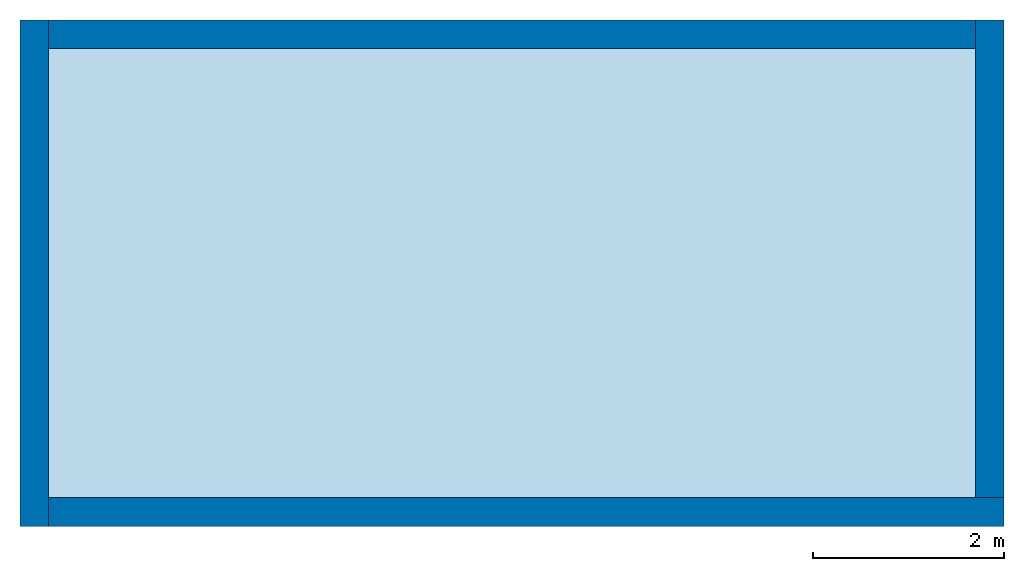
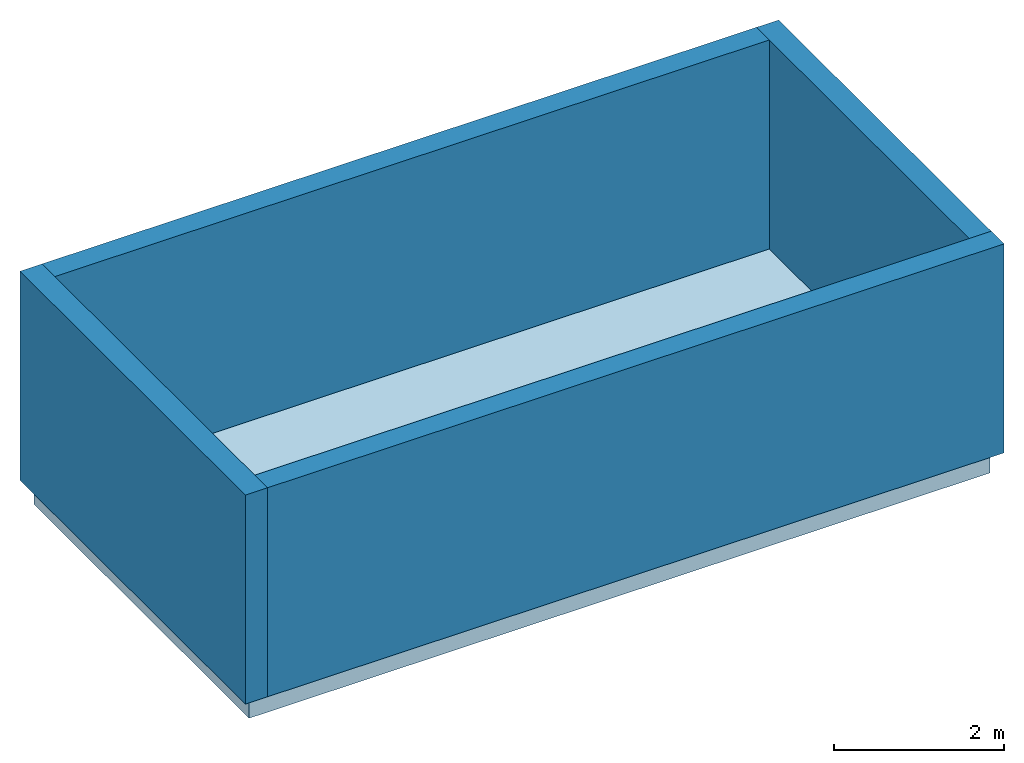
# One storey: 4 walls, 1 slab.
"""IFC2X3 building model written with IfcOpenShell, lengths in millimetres."""

from ifc_helpers import new_model, entity, si_unit, converted_unit, derived_unit, direction, frame, frame_2d, origin, place, context, subcontext, project, spatial, rectangle, extrude, material, layer, layer_set, layer_usage, type_object, element, save


model = new_model("IFC2X3")

# Units and contexts
model_context = context("Model", 3, precision=1e-05, world=origin(), true_north=direction((2.0, 6.12303176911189e-17, 1.0)))
context_of_model = context(None, 3, precision=1e-05, world=origin(), true_north=direction((2.0, 6.12303176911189e-17, 1.0)))
body_context = subcontext(model_context, "Body", "Model", "MODEL_VIEW")
ifc_project = project(units=[si_unit("LENGTHUNIT", "METRE", prefix="MILLI"), si_unit("AREAUNIT", "SQUARE_METRE"), si_unit("VOLUMEUNIT", "CUBIC_METRE"), converted_unit("PLANEANGLEUNIT", "DEGREE", entity("IfcRatioMeasure", 0.0174532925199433), si_unit("PLANEANGLEUNIT", "RADIAN"), dimensions=[0, 0, 0, 0, 0, 0, 0]), si_unit("MASSUNIT", "GRAM", prefix="KILO"), si_unit("TIMEUNIT", "SECOND"), si_unit("THERMODYNAMICTEMPERATUREUNIT", "KELVIN"), derived_unit("THERMALTRANSMITTANCEUNIT", [(si_unit("MASSUNIT", "GRAM", prefix="KILO"), 1), (si_unit("THERMODYNAMICTEMPERATUREUNIT", "KELVIN"), -1), (si_unit("TIMEUNIT", "SECOND"), -3)]), derived_unit("VOLUMETRICFLOWRATEUNIT", [(si_unit("LENGTHUNIT", "METRE"), 3), (si_unit("TIMEUNIT", "SECOND"), -1)]), si_unit("POWERUNIT", "WATT")], contexts=[model_context, context_of_model])

# Site, building, storey
site_placement = place(None, origin())
site = spatial("IfcSite", under=ifc_project, at=site_placement, Name="Surface", CompositionType="ELEMENT")
building_placement = place(site_placement, origin())
building = spatial("IfcBuilding", under=site, at=building_placement, CompositionType="ELEMENT")
storey_placement = place(building_placement, origin())
storey = spatial("IfcBuildingStorey", under=building, at=storey_placement, Name="Level 0", CompositionType="ELEMENT", Elevation=0.0)

# Slab
ifc_material_1 = material(Name="Concrete, Sand/Cement Screed")
ifc_layer_1 = layer(ifc_material_1, 65.0)
ifc_material_2 = material(Name="Rigid insulation")
ifc_layer_2 = layer(ifc_material_2, 80.0)
ifc_material_3 = material(Name="Concrete Masonry, Floor Block")
ifc_layer_3 = layer(ifc_material_3, 100.0)
ifc_material_4 = material(Name="Concrete, Precast")
ifc_layer_4 = layer(ifc_material_4, 75.0)
ifc_layer_set_1 = layer_set([ifc_layer_1, ifc_layer_2, ifc_layer_3, ifc_layer_4], Name="Floor:Beam and Block 225mm Susp Ground")
ifc_layer_usage_1 = layer_usage(ifc_layer_set_1, "AXIS3", "POSITIVE", 0.0)
slab_placement = place(storey_placement, origin())
element("IfcSlab", 1, at=slab_placement, inside=storey, material=ifc_layer_usage_1, Name="Floor:Beam and Block 225mm Susp Ground", ObjectType="Floor:Beam and Block 225mm Susp Ground", PredefinedType="FLOOR", context=body_context, shape_type="SweptSolid", body=[
    extrude(rectangle(XDim=5055.0, YDim=10055.0, at=frame_2d((0.0, 2.27373675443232e-12), x_axis=(1.0, 0.0))), frame((-1059.44147701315, 1091.33908077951, 0.0), z_axis=(0.0, 0.0, -1.0), x_axis=(0.0, 1.0, 0.0)), (0.0, 0.0, 1.0), 320.0),
])

# Walls
ifc_material_5 = material(Name="Brick, Common")
ifc_layer_5 = layer(ifc_material_5, 102.5)
ifc_material_6 = material(Name="Fiberglass Batt")
ifc_layer_6 = layer(ifc_material_6, 75.0)
ifc_material_7 = material(Name="Concrete Masonry Units")
ifc_layer_7 = layer(ifc_material_7, 110.0)
ifc_material_8 = material(Name="Gypsum Wall Board")
ifc_layer_8 = layer(ifc_material_8, 12.5)
ifc_layer_set_2 = layer_set([ifc_layer_5, ifc_layer_6, ifc_layer_7, ifc_layer_8], Name="Basic Wall:Cav - 102 75i 100 p - Lwt")
ifc_layer_usage_2 = layer_usage(ifc_layer_set_2, "AXIS2", "NEGATIVE", 150.0)
wall_type = type_object("IfcWallType", Name="Basic Wall:Cav - 102 75i 100 p - Lwt", PredefinedType="STANDARD", material=ifc_layer_set_2)
wall_1_placement = place(storey_placement, frame((-6059.44147701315, 3741.33908077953, 0.0), z_axis=(0.0, 0.0, 1.0), x_axis=(0.0, -1.0, 0.0)))
element("IfcWallStandardCase", 2, at=wall_1_placement, inside=storey, type_object=wall_type, material=ifc_layer_usage_2, Name="Basic Wall:Cav - 102 75i 100 p - Lwt", ObjectType="Basic Wall:Cav - 102 75i 100 p - Lwt", context=body_context, shape_type="SweptSolid", body=[
    extrude(rectangle(XDim=5300.0, YDim=299.999999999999, at=frame_2d((2650.0, 2.27373675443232e-13), x_axis=(-1.0, 0.0))), origin(), (0.0, 0.0, 1.0), 3000.0),
])
ifc_layer_usage_3 = layer_usage(ifc_layer_set_2, "AXIS2", "NEGATIVE", 150.0)
wall_2_placement = place(storey_placement, frame((-5909.44147701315, -1408.66091922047, 0.0)))
element("IfcWallStandardCase", 3, at=wall_2_placement, inside=storey, type_object=wall_type, material=ifc_layer_usage_3, Name="Basic Wall:Cav - 102 75i 100 p - Lwt", ObjectType="Basic Wall:Cav - 102 75i 100 p - Lwt", context=body_context, shape_type="SweptSolid", body=[
    extrude(rectangle(XDim=10000.0, YDim=300.0, at=frame_2d((5000.0, 0.0), x_axis=(-1.0, 0.0))), origin(), (0.0, 0.0, 1.0), 3000.0),
])
ifc_layer_usage_4 = layer_usage(ifc_layer_set_2, "AXIS2", "NEGATIVE", 150.0)
wall_3_placement = place(storey_placement, frame((3940.55852298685, -1258.6609192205, 0.0), z_axis=(0.0, 0.0, 1.0), x_axis=(0.0, 1.0, 0.0)))
element("IfcWallStandardCase", 4, at=wall_3_placement, inside=storey, type_object=wall_type, material=ifc_layer_usage_4, Name="Basic Wall:Cav - 102 75i 100 p - Lwt", ObjectType="Basic Wall:Cav - 102 75i 100 p - Lwt", context=body_context, shape_type="SweptSolid", body=[
    extrude(rectangle(XDim=5000.0, YDim=300.0, at=frame_2d((2500.0, 0.0), x_axis=(-1.0, 0.0))), origin(), (0.0, 0.0, 1.0), 3000.0),
])
ifc_layer_usage_5 = layer_usage(ifc_layer_set_2, "AXIS2", "NEGATIVE", 150.0)
wall_4_placement = place(storey_placement, frame((3790.55852298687, 3591.3390807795, 0.0), z_axis=(0.0, 0.0, 1.0), x_axis=(-1.0, 0.0, 0.0)))
element("IfcWallStandardCase", 5, at=wall_4_placement, inside=storey, type_object=wall_type, material=ifc_layer_usage_5, Name="Basic Wall:Cav - 102 75i 100 p - Lwt", ObjectType="Basic Wall:Cav - 102 75i 100 p - Lwt", context=body_context, shape_type="SweptSolid", body=[
    extrude(rectangle(XDim=9700.00000000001, YDim=300.0, at=frame_2d((4850.00000000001, 5.6843418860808e-14), x_axis=(-1.0, 0.0))), origin(), (0.0, 0.0, 1.0), 3000.0),
])

save(model, "model.ifc")
